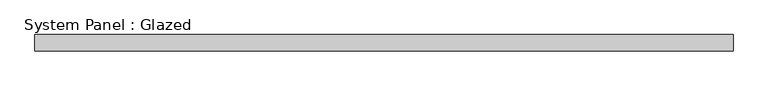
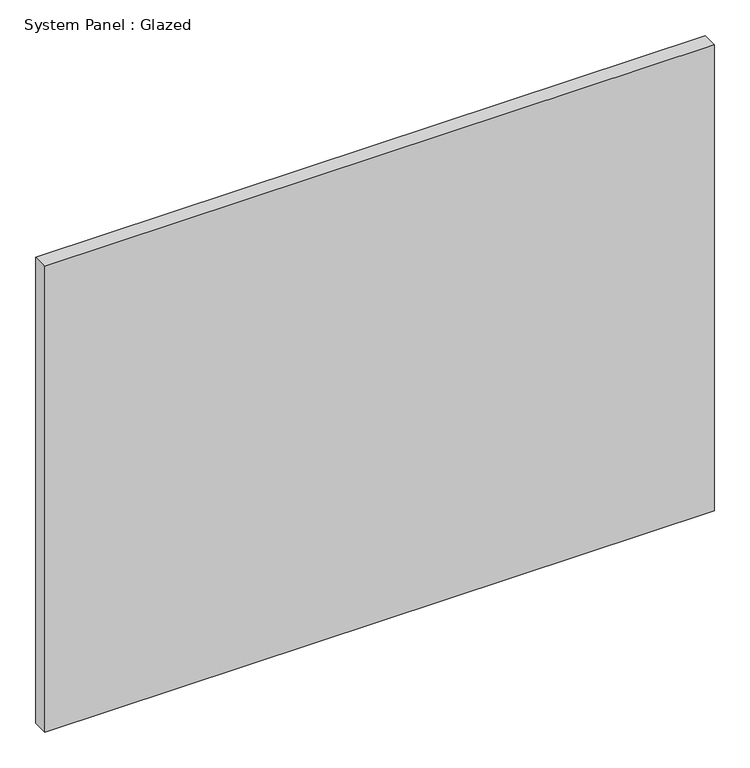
"""IFC4 building model written with IfcOpenShell, lengths in millimetres: plate geometry, System Panel : Glazed."""

from ifc_helpers import new_model, si_unit, origin, origin_with_axes, place, context, project, spatial, polyline, outline, extrude, source, transform, mapped, element, save


def system_panel_glazed_32ae429f(model_context):
    return source(origin(), model_context, "Body", "SweptSolid", [
        extrude(outline(polyline([(542.5906174, 19.05), (-542.5906174, 19.05), (-542.5906174, 44.45), (542.5906174, 44.45), (542.5906174, 19.05)])), origin_with_axes(), (0.0, 0.0, 1.0), 798.5967633),
    ])


if __name__ == "__main__":
    model = new_model("IFC4")
    model_context = context("Model", 3, world=origin())
    ifc_project = project(units=[si_unit("LENGTHUNIT", "METRE", prefix="MILLI")], contexts=[model_context])
    site = spatial("IfcSite", under=ifc_project)
    building = spatial("IfcBuilding", under=site)
    placement = place(None, origin())
    system_panel_glazed_shape = system_panel_glazed_32ae429f(model_context)
    element("IfcPlate", 1, ObjectType="System Panel : Glazed", at=placement, inside=building, context=model_context, shape_type="MappedRepresentation", body=[
        mapped(system_panel_glazed_shape, transform((0.0, 0.0, 0.0), x_axis=(1.0, 0.0, 0.0), y_axis=(0.0, 1.0, 0.0), z_axis=(0.0, 0.0, 1.0))),
    ])
    save(model, "model.ifc")
